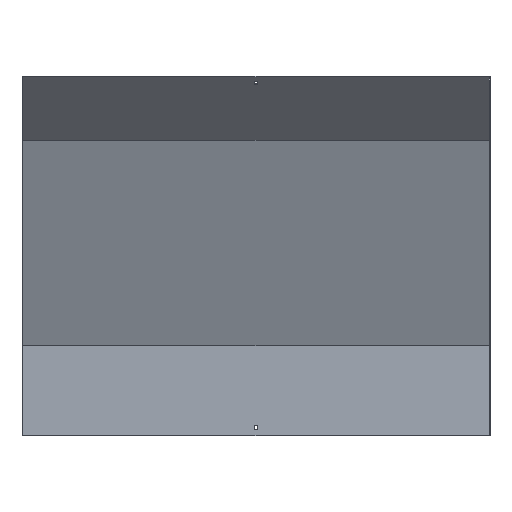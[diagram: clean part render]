
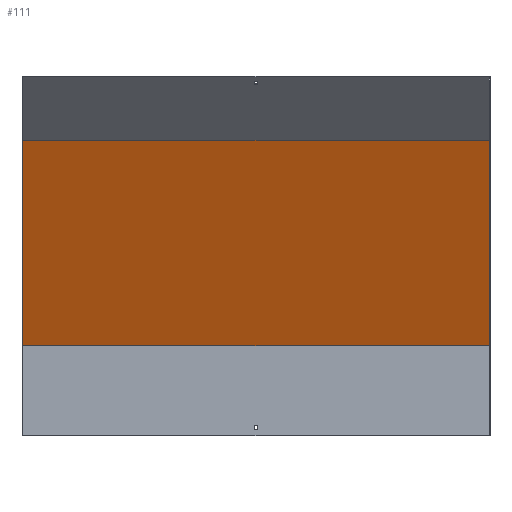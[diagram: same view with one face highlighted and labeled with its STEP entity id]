
A CAD part, front view. The second image highlights one B-rep face of the part: STEP entity #111.
In plain terms, the highlighted planar face has unit normal (0, -0.924, -0.383).
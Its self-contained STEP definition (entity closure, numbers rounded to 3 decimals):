
#25 = CARTESIAN_POINT ( 'NONE',  ( -450., 18.5, 173.68 ) ) ;
#45 = DIRECTION ( 'NONE',  ( 0., -0.924, -0.383 ) ) ;
#54 = LINE ( 'NONE', #325, #267 ) ;
#64 = LINE ( 'NONE', #330, #80 ) ;
#76 = DIRECTION ( 'NONE',  ( 0., -0.383, 0.924 ) ) ;
#80 = VECTOR ( 'NONE', #76, 1000. ) ;
#111 = ADVANCED_FACE ( 'NONE', ( #776 ), #640, .T. ) ;
#116 = CARTESIAN_POINT ( 'NONE',  ( 450., 18.5, 173.68 ) ) ;
#120 = ORIENTED_EDGE ( 'NONE', *, *, #270, .T. ) ;
#139 = ORIENTED_EDGE ( 'NONE', *, *, #476, .F. ) ;
#155 = ORIENTED_EDGE ( 'NONE', *, *, #225, .F. ) ;
#167 = EDGE_CURVE ( 'NONE', #839, #394, #534, .T. ) ;
#186 = DIRECTION ( 'NONE',  ( 0., 0.383, -0.924 ) ) ;
#201 = DIRECTION ( 'NONE',  ( -1., 0., 0. ) ) ;
#225 = EDGE_CURVE ( 'NONE', #380, #546, #64, .T. ) ;
#250 = VECTOR ( 'NONE', #201, 1000. ) ;
#267 = VECTOR ( 'NONE', #756, 1000. ) ;
#270 = EDGE_CURVE ( 'NONE', #394, #546, #784, .T. ) ;
#283 = AXIS2_PLACEMENT_3D ( 'NONE', #579, #45, #186 ) ;
#320 = CARTESIAN_POINT ( 'NONE',  ( -450., -145.809, 570.357 ) ) ;
#325 = CARTESIAN_POINT ( 'NONE',  ( 451.5, 18.5, 173.68 ) ) ;
#327 = ORIENTED_EDGE ( 'NONE', *, *, #167, .T. ) ;
#330 = CARTESIAN_POINT ( 'NONE',  ( -450., 77.196, 31.976 ) ) ;
#380 = VERTEX_POINT ( 'NONE', #25 ) ;
#394 = VERTEX_POINT ( 'NONE', #770 ) ;
#405 = VECTOR ( 'NONE', #530, 1000. ) ;
#472 = EDGE_LOOP ( 'NONE', ( #155, #139, #327, #120 ) ) ;
#476 = EDGE_CURVE ( 'NONE', #839, #380, #54, .T. ) ;
#530 = DIRECTION ( 'NONE',  ( 0., -0.383, 0.924 ) ) ;
#534 = LINE ( 'NONE', #719, #405 ) ;
#546 = VERTEX_POINT ( 'NONE', #320 ) ;
#579 = CARTESIAN_POINT ( 'NONE',  ( 451.5, 17.092, 177.08 ) ) ;
#593 = CARTESIAN_POINT ( 'NONE',  ( 451.5, -145.809, 570.357 ) ) ;
#640 = PLANE ( 'NONE',  #283 ) ;
#719 = CARTESIAN_POINT ( 'NONE',  ( 450., 77.196, 31.976 ) ) ;
#756 = DIRECTION ( 'NONE',  ( -1., 0., 0. ) ) ;
#770 = CARTESIAN_POINT ( 'NONE',  ( 450., -145.809, 570.357 ) ) ;
#776 = FACE_OUTER_BOUND ( 'NONE', #472, .T. ) ;
#784 = LINE ( 'NONE', #593, #250 ) ;
#839 = VERTEX_POINT ( 'NONE', #116 ) ;
